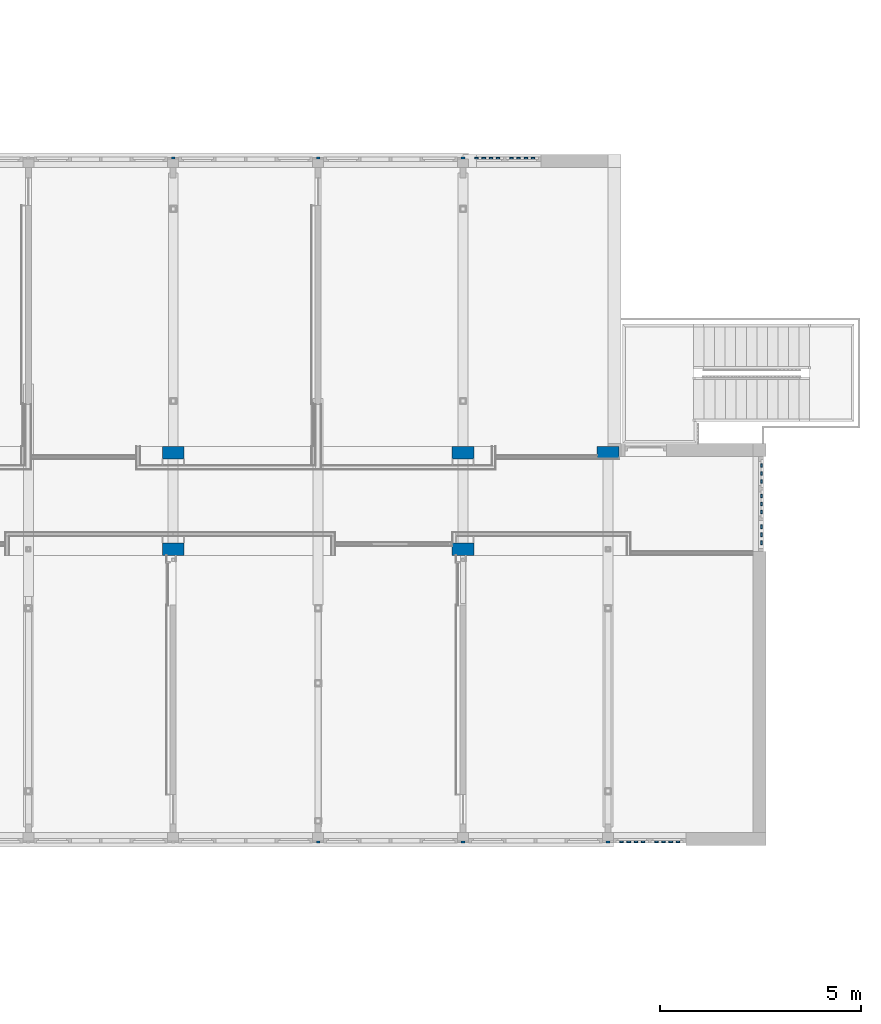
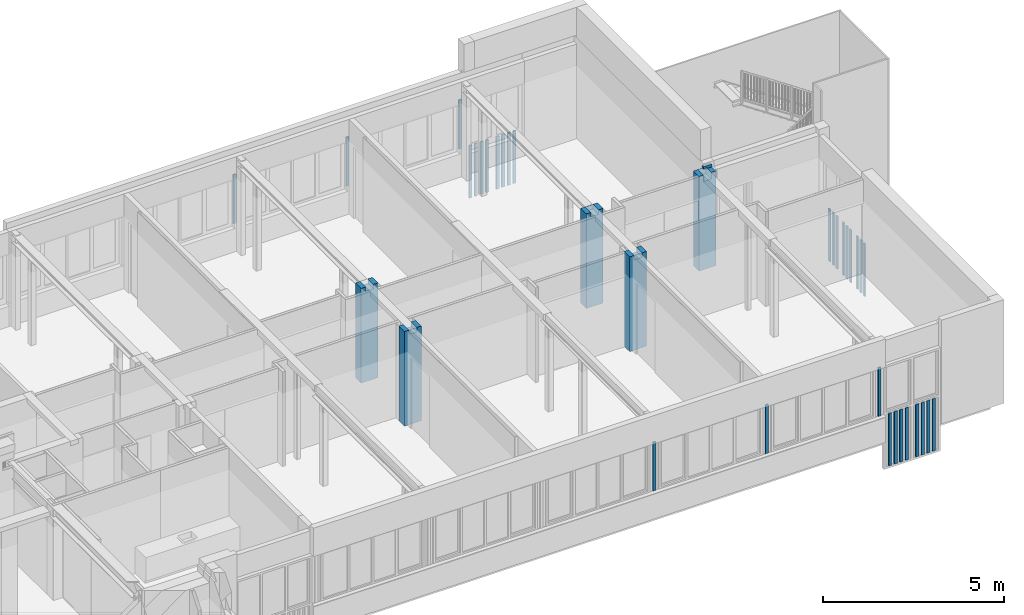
# One storey, part 18 of 117: 36 columns.
"""IFC2X3 building model written with IfcOpenShell, lengths in millimetres."""

from ifc_helpers import new_model, entity, si_unit, converted_unit, derived_unit, money_unit, direction, frame, origin_with_axes, place, context, subcontext, project, spatial, faceted_brep, material, type_object, element, save


model = new_model("IFC2X3")

# Units and contexts
model_context = context("Model", 3, precision=0.01, world=origin_with_axes(), true_north=direction((0.0, 1.0)))
body_context = subcontext(model_context, "Body", "Model", "MODEL_VIEW")
ifc_project = project(units=[si_unit("LENGTHUNIT", "METRE", prefix="MILLI"), si_unit("AREAUNIT", "SQUARE_METRE"), si_unit("VOLUMEUNIT", "CUBIC_METRE"), converted_unit("PLANEANGLEUNIT", "DEGREE", entity("IfcPlaneAngleMeasure", 0.0174532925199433), si_unit("PLANEANGLEUNIT", "RADIAN"), dimensions=[0, 0, 0, 0, 0, 0, 0]), money_unit("EUR"), converted_unit("TIMEUNIT", "Year", entity("IfcTimeMeasure", 31557600.0), si_unit("TIMEUNIT", "SECOND"), dimensions=[0, 0, 1, 0, 0, 0, 0]), si_unit("MASSUNIT", "GRAM", prefix="KILO"), si_unit("THERMODYNAMICTEMPERATUREUNIT", "DEGREE_CELSIUS"), si_unit("LUMINOUSINTENSITYUNIT", "LUMEN"), si_unit("ENERGYUNIT", "JOULE", prefix="MEGA"), derived_unit("THERMALCONDUCTANCEUNIT", [(si_unit("POWERUNIT", "WATT"), 1), (si_unit("LENGTHUNIT", "METRE"), -1), (si_unit("THERMODYNAMICTEMPERATUREUNIT", "KELVIN"), -1)]), derived_unit("SPECIFICHEATCAPACITYUNIT", [(si_unit("ENERGYUNIT", "JOULE"), 1), (si_unit("MASSUNIT", "GRAM", prefix="KILO"), -1), (si_unit("THERMODYNAMICTEMPERATUREUNIT", "KELVIN"), -1)]), derived_unit("MASSDENSITYUNIT", [(si_unit("MASSUNIT", "GRAM", prefix="KILO"), 1), (si_unit("VOLUMEUNIT", "CUBIC_METRE"), -1)])], contexts=[model_context])

# Site, building, storey
site_placement = place(None, origin_with_axes())
site = spatial("IfcSite", under=ifc_project, at=site_placement, Name="Site", CompositionType="ELEMENT")
building_placement = place(site_placement, origin_with_axes())
building = spatial("IfcBuilding", under=site, at=building_placement, Name="Naam gebouw", CompositionType="ELEMENT")
storey_placement = place(building_placement, frame((0.0, 0.0, 4150.0), z_axis=(0.0, 0.0, 1.0), x_axis=(1.0, 0.0, 0.0)))
storey = spatial("IfcBuildingStorey", under=building, at=storey_placement, Name="1e verdieping N", CompositionType="ELEMENT", Elevation=4150.0)

# Columns
ifc_material_1 = material(Name="Metaal - Staal C")
column_type_1 = type_object("IfcColumnType", Name="Metaal - Staal C 90 x 44", PredefinedType="COLUMN")
for number, where, z_axis, x_axis, name in (
    (1, (54337.74999999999, 10752.91242510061, -993.0000000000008), (0.0, 0.0, 1.0), (1.0, 0.0, 0.0), "_Kolom-x"),
    (2, (54693.08333333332, 10752.91242510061, -993.0000000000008), (0.0, 0.0, 1.0), (1.0, 0.0, 0.0), "_Kolom-x"),
    (3, (54515.41666666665, 10752.91242510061, -993.0000000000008), (0.0, 0.0, 1.0), (1.0, 0.0, 0.0), "_Kolom-x"),
    (4, (54870.74999999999, 10752.91242510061, -993.0000000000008), (0.0, 0.0, 1.0), (1.0, 0.0, 0.0), "_Kolom-x"),
    (5, (55381.91666666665, 10752.91242510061, -993.0000000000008), (0.0, 0.0, 1.0), (1.0, 0.0, 0.0), "_Kolom-x"),
    (6, (55559.58333333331, 10752.91242510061, -993.0000000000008), (0.0, 0.0, 1.0), (1.0, 0.0, 0.0), "_Kolom-x"),
    (7, (55737.24999999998, 10752.91242510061, -993.0000000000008), (0.0, 0.0, 1.0), (1.0, 0.0, 0.0), "_Kolom-x"),
    (8, (55204.24999999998, 10752.91242510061, -993.0000000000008), (0.0, 0.0, 1.0), (1.0, 0.0, 0.0), "_Kolom-x"),
):
    element("IfcColumn", number, at=place(storey_placement, frame(where, z_axis=z_axis, x_axis=x_axis)), inside=storey, type_object=column_type_1, material=ifc_material_1, Name=name, ObjectType="COLUMN", context=body_context, shape_type="Brep", body=[
        faceted_brep([(-45.00000000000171, -22.00000000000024, 1776.000000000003), (-45.00000000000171, -22.00000000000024, 0.0), (45.00000000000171, -22.00000000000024, 0.0), (45.00000000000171, -22.00000000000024, 1776.000000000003), (-45.00000000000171, 22.00000000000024, 1776.000000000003), (-45.00000000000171, 22.00000000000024, 0.0), (45.00000000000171, 22.00000000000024, 0.0), (45.00000000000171, 22.00000000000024, 1776.000000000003)], [[[0, 1, 2, 3]], [[4, 5, 1, 0]], [[2, 1, 5, 6]], [[3, 2, 6, 7]], [[4, 0, 3, 7]], [[7, 6, 5, 4]]]),
    ])
column_1_placement = place(storey_placement, frame((46799.99999999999, 10752.91242510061, 782.9999999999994), z_axis=(0.0, 0.0, 1.0), x_axis=(1.0, 0.0, 0.0)))
element("IfcColumn", 9, at=column_1_placement, inside=storey, type_object=column_type_1, material=ifc_material_1, Name="_Kolom-x", ObjectType="COLUMN", context=body_context, shape_type="Brep", body=[
    faceted_brep([(45.00000000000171, -22.00000000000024, 17.63269807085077), (45.00000000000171, -16.99999999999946, 18.51433297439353), (45.00000000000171, -16.99999999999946, 28.51433297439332), (45.00000000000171, -14.99999999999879, 28.51433297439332), (45.00000000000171, -14.99999999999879, 16.83613371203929), (45.00000000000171, -22.00000000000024, 15.6018448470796), (45.00000000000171, -22.00000000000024, 0.0), (45.00000000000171, 22.00000000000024, 0.0), (45.00000000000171, 22.00000000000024, 1657.0), (45.00000000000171, -22.00000000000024, 1657.0), (-45.00000000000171, -16.99999999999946, 18.51433297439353), (-45.00000000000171, -22.00000000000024, 17.63269807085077), (-45.00000000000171, -16.99999999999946, 28.51433297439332), (-45.00000000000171, -14.99999999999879, 28.51433297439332), (-45.00000000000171, -14.99999999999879, 16.83613371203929), (-45.00000000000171, -22.00000000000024, 15.6018448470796), (-45.00000000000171, -22.00000000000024, 0.0), (-45.00000000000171, 22.00000000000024, 0.0), (-45.00000000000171, 22.00000000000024, 1657.0), (-45.00000000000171, -22.00000000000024, 1657.0)], [[[0, 1, 2, 3, 4, 5, 6, 7, 8, 9]], [[10, 1, 0, 11]], [[12, 2, 1, 10]], [[13, 3, 2, 12]], [[14, 4, 3, 13]], [[15, 5, 4, 14]], [[6, 5, 15, 16]], [[7, 6, 16, 17]], [[18, 8, 7, 17]], [[8, 18, 19, 9]], [[19, 11, 0, 9]], [[12, 10, 11, 19, 18, 17, 16, 15, 14, 13]]]),
])
for number, where, z_axis, x_axis, name in (
    (10, (50399.99999999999, 10752.9124251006, 782.9999999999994), (0.0, 0.0, 1.0), (1.0, 0.0, 0.0), "_Kolom-x"),
    (11, (53999.99999999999, 10752.9124251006, 782.9999999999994), (0.0, 0.0, 1.0), (1.0, 0.0, 0.0), "_Kolom-x"),
):
    element("IfcColumn", number, at=place(storey_placement, frame(where, z_axis=z_axis, x_axis=x_axis)), inside=storey, type_object=column_type_1, material=ifc_material_1, Name=name, ObjectType="COLUMN", context=body_context, shape_type="Brep", body=[
        faceted_brep([(45.00000000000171, -22.00000000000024, 17.63269807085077), (45.00000000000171, -16.99999999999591, 18.51433297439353), (45.00000000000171, -16.99999999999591, 28.51433297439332), (45.00000000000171, -14.99999999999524, 28.51433297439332), (45.00000000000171, -14.99999999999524, 16.83613371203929), (45.00000000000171, -22.00000000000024, 15.6018448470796), (45.00000000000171, -22.00000000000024, 0.0), (45.00000000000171, 22.00000000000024, 0.0), (45.00000000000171, 22.00000000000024, 1657.0), (45.00000000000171, -22.00000000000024, 1657.0), (-45.00000000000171, -16.99999999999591, 18.51433297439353), (-45.00000000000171, -22.00000000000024, 17.63269807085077), (-45.00000000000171, -16.99999999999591, 28.51433297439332), (-45.00000000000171, -14.99999999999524, 28.51433297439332), (-45.00000000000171, -14.99999999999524, 16.83613371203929), (-45.00000000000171, -22.00000000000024, 15.6018448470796), (-45.00000000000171, -22.00000000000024, 0.0), (-45.00000000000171, 22.00000000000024, 0.0), (-45.00000000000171, 22.00000000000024, 1657.0), (-45.00000000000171, -22.00000000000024, 1657.0)], [[[0, 1, 2, 3, 4, 5, 6, 7, 8, 9]], [[10, 1, 0, 11]], [[12, 2, 1, 10]], [[13, 3, 2, 12]], [[14, 4, 3, 13]], [[15, 5, 4, 14]], [[6, 5, 15, 16]], [[7, 6, 16, 17]], [[18, 8, 7, 17]], [[8, 18, 19, 9]], [[19, 11, 0, 9]], [[12, 10, 11, 19, 18, 17, 16, 15, 14, 13]]]),
    ])
for number, where, z_axis, x_axis, name in (
    (12, (57815.99999999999, 19712.31718700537, -993.0000000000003), (0.0, 0.0, 1.0), (0.0, 1.0, 0.0), "_Kolom-x"),
    (13, (57815.99999999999, 19911.07909176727, -993.0000000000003), (0.0, 0.0, 1.0), (0.0, 1.0, 0.0), "_Kolom-x"),
    (14, (57815.99999999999, 20109.84099652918, -993.0000000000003), (0.0, 0.0, 1.0), (0.0, 1.0, 0.0), "_Kolom-x"),
    (15, (57815.99999999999, 18949.6505203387, -993.0000000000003), (0.0, 0.0, 1.0), (0.0, 1.0, 0.0), "_Kolom-x"),
    (16, (57815.99999999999, 19148.41242510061, -993.0000000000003), (0.0, 0.0, 1.0), (0.0, 1.0, 0.0), "_Kolom-x"),
    (17, (57815.99999999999, 18186.98385367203, -993.0000000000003), (0.0, 0.0, 1.0), (0.0, 1.0, 0.0), "_Kolom-x"),
    (18, (57815.99999999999, 18385.74575843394, -993.0000000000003), (0.0, 0.0, 1.0), (0.0, 1.0, 0.0), "_Kolom-x"),
    (19, (57815.99999999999, 19347.17432986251, -993.0000000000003), (0.0, 0.0, 1.0), (0.0, 1.0, 0.0), "_Kolom-x"),
    (20, (57815.99999999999, 18584.50766319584, -993.0000000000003), (0.0, 0.0, 1.0), (0.0, 1.0, 0.0), "_Kolom-x"),
):
    element("IfcColumn", number, at=place(storey_placement, frame(where, z_axis=z_axis, x_axis=x_axis)), inside=storey, type_object=column_type_1, material=ifc_material_1, Name=name, ObjectType="COLUMN", context=body_context, shape_type="Brep", body=[
        faceted_brep([(-45.00000000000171, -21.99999999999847, 1776.000000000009), (-45.00000000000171, -21.99999999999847, 0.0), (45.00000000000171, -21.99999999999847, 0.0), (45.00000000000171, -21.99999999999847, 1776.000000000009), (-45.00000000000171, 21.99999999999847, 1776.000000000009), (-45.00000000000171, 21.99999999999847, 0.0), (45.00000000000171, 21.99999999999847, 0.0), (45.00000000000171, 21.99999999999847, 1776.000000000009)], [[[0, 1, 2, 3]], [[4, 5, 1, 0]], [[2, 1, 5, 6]], [[3, 2, 6, 7]], [[4, 0, 3, 7]], [[7, 6, 5, 4]]]),
    ])
for number, where, z_axis, x_axis, name in (
    (21, (51270.75, 27743.91242510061, -993.0000000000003), (0.0, 0.0, 1.0), (-1.0, 0.0, 0.0), "_Kolom-x"),
    (22, (51093.08333333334, 27743.91242510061, -993.0000000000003), (0.0, 0.0, 1.0), (-1.0, 0.0, 0.0), "_Kolom-x"),
    (23, (50915.41666666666, 27743.91242510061, -993.0000000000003), (0.0, 0.0, 1.0), (-1.0, 0.0, 0.0), "_Kolom-x"),
    (24, (50737.75, 27743.91242510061, -993.0000000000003), (0.0, 0.0, 1.0), (-1.0, 0.0, 0.0), "_Kolom-x"),
    (25, (52137.25, 27743.91242510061, -993.0000000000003), (0.0, 0.0, 1.0), (-1.0, 0.0, 0.0), "_Kolom-x"),
    (26, (51959.58333333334, 27743.91242510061, -993.0000000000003), (0.0, 0.0, 1.0), (-1.0, 0.0, 0.0), "_Kolom-x"),
    (27, (51781.91666666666, 27743.91242510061, -993.0000000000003), (0.0, 0.0, 1.0), (-1.0, 0.0, 0.0), "_Kolom-x"),
    (28, (51604.25, 27743.91242510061, -993.0000000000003), (0.0, 0.0, 1.0), (-1.0, 0.0, 0.0), "_Kolom-x"),
):
    element("IfcColumn", number, at=place(storey_placement, frame(where, z_axis=z_axis, x_axis=x_axis)), inside=storey, type_object=column_type_1, material=ifc_material_1, Name=name, ObjectType="COLUMN", context=body_context, shape_type="Brep", body=[
        faceted_brep([(-45.00000000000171, -21.99999999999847, 1776.000000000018), (-45.00000000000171, -21.99999999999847, 0.0), (45.00000000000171, -21.99999999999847, 0.0), (45.00000000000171, -21.99999999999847, 1776.000000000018), (-45.00000000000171, 21.99999999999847, 1776.000000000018), (-45.00000000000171, 21.99999999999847, 0.0), (45.00000000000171, 21.99999999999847, 0.0), (45.00000000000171, 21.99999999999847, 1776.000000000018)], [[[0, 1, 2, 3]], [[4, 5, 1, 0]], [[2, 1, 5, 6]], [[3, 2, 6, 7]], [[4, 0, 3, 7]], [[7, 6, 5, 4]]]),
    ])
column_2_placement = place(storey_placement, frame((50399.99999999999, 27743.91242510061, 782.9999999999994), z_axis=(0.0, 0.0, 1.0), x_axis=(-1.0, 0.0, 0.0)))
element("IfcColumn", 29, at=column_2_placement, inside=storey, type_object=column_type_1, material=ifc_material_1, Name="_Kolom-x", ObjectType="COLUMN", context=body_context, shape_type="Brep", body=[
    faceted_brep([(-45.00000000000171, -14.99999999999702, 28.51433297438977), (-45.00000000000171, -16.99999999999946, 28.51433297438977), (-45.00000000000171, -16.99999999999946, 18.51433297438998), (-45.00000000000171, -21.99999999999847, 17.63269807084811), (-45.00000000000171, -21.99999999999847, 1657.0), (-45.00000000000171, 21.99999999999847, 1657.0), (-45.00000000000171, 21.99999999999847, 0.0), (-45.00000000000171, -21.99999999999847, 0.0), (-45.00000000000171, -21.99999999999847, 15.60184484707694), (-45.00000000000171, -14.99999999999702, 16.83613371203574), (45.00000000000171, -16.99999999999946, 28.51433297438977), (45.00000000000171, -14.99999999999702, 28.51433297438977), (45.00000000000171, -16.99999999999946, 18.51433297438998), (45.00000000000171, -21.99999999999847, 17.63269807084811), (45.00000000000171, -21.99999999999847, 1657.0), (45.00000000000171, 21.99999999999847, 1657.0), (45.00000000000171, 21.99999999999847, 0.0), (45.00000000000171, -21.99999999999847, 0.0), (45.00000000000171, -21.99999999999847, 15.60184484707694), (45.00000000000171, -14.99999999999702, 16.83613371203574)], [[[0, 1, 2, 3, 4, 5, 6, 7, 8, 9]], [[10, 1, 0, 11]], [[12, 2, 1, 10]], [[12, 13, 3, 2]], [[4, 3, 13, 14]], [[15, 5, 4, 14]], [[5, 15, 16, 6]], [[16, 17, 7, 6]], [[17, 18, 8, 7]], [[19, 9, 8, 18]], [[11, 0, 9, 19]], [[11, 19, 18, 17, 16, 15, 14, 13, 12, 10]]]),
])
column_3_placement = place(storey_placement, frame((43199.99999999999, 27743.91242510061, 782.9999999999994), z_axis=(0.0, 0.0, 1.0), x_axis=(-1.0, 0.0, 0.0)))
element("IfcColumn", 30, at=column_3_placement, inside=storey, type_object=column_type_1, material=ifc_material_1, Name="_Kolom-x", ObjectType="COLUMN", context=body_context, shape_type="Brep", body=[
    faceted_brep([(-45.00000000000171, -14.99999999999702, 28.51433297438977), (-45.00000000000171, -16.99999999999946, 28.51433297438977), (-45.00000000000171, -16.99999999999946, 18.51433297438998), (-45.00000000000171, -21.99999999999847, 17.63269807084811), (-45.00000000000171, -21.99999999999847, 1657.0), (-45.00000000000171, 21.99999999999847, 1657.0), (-45.00000000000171, 21.99999999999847, 0.0), (-45.00000000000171, -21.99999999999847, 0.0), (-45.00000000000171, -21.99999999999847, 15.60184484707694), (-45.00000000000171, -14.99999999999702, 16.83613371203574), (45.00000000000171, -16.99999999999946, 28.51433297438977), (45.00000000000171, -15.00000000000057, 28.51433297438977), (45.00000000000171, -16.99999999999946, 18.51433297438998), (45.00000000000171, -21.99999999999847, 17.63269807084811), (45.00000000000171, -21.99999999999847, 1657.0), (45.00000000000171, 21.99999999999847, 1657.0), (45.00000000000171, 21.99999999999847, 0.0), (45.00000000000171, -21.99999999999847, 0.0), (45.00000000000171, -21.99999999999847, 15.60184484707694), (45.00000000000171, -15.00000000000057, 16.83613371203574)], [[[0, 1, 2, 3, 4, 5, 6, 7, 8, 9]], [[10, 1, 0, 11]], [[12, 2, 1, 10]], [[12, 13, 3, 2]], [[4, 3, 13, 14]], [[15, 5, 4, 14]], [[5, 15, 16, 6]], [[16, 17, 7, 6]], [[17, 18, 8, 7]], [[19, 9, 8, 18]], [[11, 0, 9, 19]], [[11, 19, 18, 17, 16, 15, 14, 13, 12, 10]]]),
])
column_4_placement = place(storey_placement, frame((46799.99999999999, 27743.91242510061, 782.9999999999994), z_axis=(0.0, 0.0, 1.0), x_axis=(-1.0, 0.0, 0.0)))
element("IfcColumn", 31, at=column_4_placement, inside=storey, type_object=column_type_1, material=ifc_material_1, Name="_Kolom-x", ObjectType="COLUMN", context=body_context, shape_type="Brep", body=[
    faceted_brep([(-45.00000000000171, -14.99999999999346, 28.51433297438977), (-45.00000000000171, -16.99999999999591, 28.51433297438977), (-45.00000000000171, -16.99999999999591, 18.51433297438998), (-45.00000000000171, -21.99999999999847, 17.63269807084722), (-45.00000000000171, -21.99999999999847, 1657.0), (-45.00000000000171, 21.99999999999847, 1657.0), (-45.00000000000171, 21.99999999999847, 0.0), (-45.00000000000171, -21.99999999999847, 0.0), (-45.00000000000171, -21.99999999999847, 15.60184484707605), (-45.00000000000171, -14.99999999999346, 16.83613371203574), (45.00000000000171, -16.99999999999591, 28.51433297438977), (45.00000000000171, -14.99999999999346, 28.51433297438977), (45.00000000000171, -16.99999999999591, 18.51433297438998), (45.00000000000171, -21.99999999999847, 17.63269807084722), (45.00000000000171, -21.99999999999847, 1657.0), (45.00000000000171, 21.99999999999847, 1657.0), (45.00000000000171, 21.99999999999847, 0.0), (45.00000000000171, -21.99999999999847, 0.0), (45.00000000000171, -21.99999999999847, 15.60184484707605), (45.00000000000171, -14.99999999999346, 16.83613371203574)], [[[0, 1, 2, 3, 4, 5, 6, 7, 8, 9]], [[10, 1, 0, 11]], [[12, 2, 1, 10]], [[12, 13, 3, 2]], [[4, 3, 13, 14]], [[15, 5, 4, 14]], [[5, 15, 16, 6]], [[16, 17, 7, 6]], [[17, 18, 8, 7]], [[19, 9, 8, 18]], [[11, 0, 9, 19]], [[11, 19, 18, 17, 16, 15, 14, 13, 12, 10]]]),
])
ifc_material_2 = material(Name="ALG - CONSTRUCTIEF")
column_type_2 = type_object("IfcColumnType", Name="ALG - CONSTRUCTIEF 540 x 310", PredefinedType="COLUMN")
column_5_placement = place(storey_placement, frame((50399.99999999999, 20425.91242510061, -99.99999999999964), z_axis=(0.0, 0.0, 1.0), x_axis=(1.0, 0.0, 0.0)))
element("IfcColumn", 32, at=column_5_placement, inside=storey, type_object=column_type_2, material=ifc_material_2, Name="_Kolom-x", ObjectType="COLUMN", context=body_context, shape_type="Brep", body=[
    faceted_brep([(-270.0000000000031, -155.0000000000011, 3300.0), (-125.0, -155.0000000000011, 3300.0), (-125.0, 150.0000000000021, 3300.0), (125.0, 150.0000000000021, 3300.0), (125.0, -155.0000000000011, 3300.0), (270.0000000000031, -155.0000000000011, 3300.0), (270.0000000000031, 155.0000000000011, 3300.0), (-270.0000000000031, 155.0000000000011, 3300.0), (125.0, -155.0000000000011, 3149.999999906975), (-125.0, -155.0000000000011, 3149.999999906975), (-270.0000000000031, -155.0000000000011, 99.99999999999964), (270.0000000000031, -155.0000000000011, 99.99999999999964), (-125.0, 150.0000000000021, 3149.999999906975), (125.0, 150.0000000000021, 3149.999999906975), (270.0000000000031, 155.0000000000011, 99.99999999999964), (-270.0000000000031, 155.0000000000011, 99.99999999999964)], [[[0, 1, 2, 3, 4, 5, 6, 7]], [[8, 9, 1, 0, 10, 11, 5, 4]], [[12, 2, 1, 9]], [[13, 3, 2, 12]], [[8, 4, 3, 13]], [[11, 14, 6, 5]], [[14, 15, 7, 6]], [[15, 10, 0, 7]], [[12, 9, 8, 13]], [[11, 10, 15, 14]]]),
])
column_6_placement = place(storey_placement, frame((43199.99999999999, 20425.91242510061, -99.99999999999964), z_axis=(0.0, 0.0, 1.0), x_axis=(1.0, 0.0, 0.0)))
element("IfcColumn", 33, at=column_6_placement, inside=storey, type_object=column_type_2, material=ifc_material_2, Name="_Kolom-x", ObjectType="COLUMN", context=body_context, shape_type="Brep", body=[
    faceted_brep([(-125.0, 155.0000000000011, 3300.0), (-125.0, 155.0000000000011, 3149.999999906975), (125.0, 155.0000000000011, 3149.999999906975), (125.0, 155.0000000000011, 3300.0), (270.0000000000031, 155.0000000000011, 3300.0), (270.0000000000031, 155.0000000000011, 99.99999999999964), (-270.0000000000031, 155.0000000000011, 99.99999999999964), (-270.0000000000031, 155.0000000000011, 3300.0), (-125.0, -155.0000000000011, 3149.999999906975), (-125.0, -155.0000000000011, 3300.0), (125.0, -155.0000000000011, 3149.999999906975), (125.0, -155.0000000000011, 3300.0), (270.0000000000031, -155.0000000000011, 3300.0), (270.0000000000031, -155.0000000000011, 99.99999999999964), (-270.0000000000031, -155.0000000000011, 99.99999999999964), (-270.0000000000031, -155.0000000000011, 3300.0)], [[[0, 1, 2, 3, 4, 5, 6, 7]], [[8, 1, 0, 9]], [[10, 2, 1, 8]], [[10, 11, 3, 2]], [[4, 3, 11, 12]], [[13, 5, 4, 12]], [[13, 14, 6, 5]], [[6, 14, 15, 7]], [[15, 9, 0, 7]], [[10, 8, 9, 15, 14, 13, 12, 11]]]),
])
column_7_placement = place(storey_placement, frame((54000.0, 20425.91242510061, -99.99999999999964), z_axis=(0.0, 0.0, 1.0), x_axis=(1.0, 0.0, 0.0)))
element("IfcColumn", 34, at=column_7_placement, inside=storey, type_object=column_type_2, material=ifc_material_2, Name="_Kolom-x", ObjectType="COLUMN", context=body_context, shape_type="Brep", body=[
    faceted_brep([(0.0, 65.51750883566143, 3330.000000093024), (125.0, 65.51750883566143, 3330.000000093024), (125.0, 65.51750883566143, 3300.0), (270.0000000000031, 65.51750883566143, 3300.0), (270.0000000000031, 65.51750883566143, 3400.0), (0.0, 65.51750883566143, 3400.0), (125.0, 150.0000000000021, 3330.000000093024), (0.0, 150.0000000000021, 3330.000000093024), (125.0, -155.0000000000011, 3300.0), (125.0, 150.0000000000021, 3079.999999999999), (125.0, -155.0000000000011, 3079.999999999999), (270.0000000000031, -155.0000000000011, 3300.0), (270.0000000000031, 155.0000000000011, 3400.0), (270.0000000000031, -155.0000000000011, 99.99999999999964), (270.0000000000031, 155.0000000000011, 99.99999999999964), (0.0, 155.0000000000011, 3400.0), (0.0, 150.0000000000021, 3300.0), (0.0, 155.0000000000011, 3300.0), (-125.0, 150.0000000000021, 3300.0), (-125.0, 150.0000000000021, 3079.999999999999), (-125.0, -155.0000000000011, 3079.999999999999), (-125.0, -155.0000000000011, 3300.0), (-270.0000000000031, -155.0000000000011, 3300.0), (-270.0000000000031, -155.0000000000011, 99.99999999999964), (-270.0000000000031, 155.0000000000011, 99.99999999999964), (-270.0000000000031, 155.0000000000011, 3300.0)], [[[0, 1, 2, 3, 4, 5]], [[6, 1, 0, 7]], [[8, 2, 1, 6, 9, 10]], [[3, 2, 8, 11]], [[12, 4, 3, 11, 13, 14]], [[4, 12, 15, 5]], [[16, 7, 0, 5, 15, 17]], [[6, 7, 16, 18, 19, 9]], [[19, 20, 10, 9]], [[10, 20, 21, 22, 23, 13, 11, 8]], [[13, 23, 24, 14]], [[24, 25, 17, 15, 12, 14]], [[21, 18, 16, 17, 25, 22]], [[19, 18, 21, 20]], [[24, 23, 22, 25]]]),
])
column_8_placement = place(storey_placement, frame((43199.99999999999, 18025.91242510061, -99.99999999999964), z_axis=(0.0, 0.0, 1.0), x_axis=(1.0, 0.0, 0.0)))
element("IfcColumn", 35, at=column_8_placement, inside=storey, type_object=column_type_2, material=ifc_material_2, Name="_Kolom-x", ObjectType="COLUMN", context=body_context, shape_type="Brep", body=[
    faceted_brep([(-124.9999999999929, 155.0000000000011, 3300.0), (-124.9999999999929, 155.0000000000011, 3149.999999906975), (125.0000000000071, 155.0000000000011, 3149.999999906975), (125.0000000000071, 155.0000000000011, 3300.0), (270.0000000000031, 155.0000000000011, 3300.0), (270.0000000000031, 155.0000000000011, 99.99999999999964), (-270.0000000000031, 155.0000000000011, 99.99999999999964), (-270.0000000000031, 155.0000000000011, 3300.0), (-124.9999999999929, -155.0000000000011, 3149.999999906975), (-124.9999999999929, -155.0000000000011, 3300.0), (125.0000000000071, -155.0000000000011, 3149.999999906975), (125.0000000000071, -155.0000000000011, 3300.0), (270.0000000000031, -155.0000000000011, 3300.0), (270.0000000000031, -155.0000000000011, 99.99999999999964), (-270.0000000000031, -155.0000000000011, 99.99999999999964), (-270.0000000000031, -155.0000000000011, 3300.0)], [[[0, 1, 2, 3, 4, 5, 6, 7]], [[8, 1, 0, 9]], [[10, 2, 1, 8]], [[10, 11, 3, 2]], [[4, 3, 11, 12]], [[13, 5, 4, 12]], [[13, 14, 6, 5]], [[6, 14, 15, 7]], [[15, 9, 0, 7]], [[10, 8, 9, 15, 14, 13, 12, 11]]]),
])
column_9_placement = place(storey_placement, frame((50399.99999999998, 18025.91242510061, -99.99999999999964), z_axis=(0.0, 0.0, 1.0), x_axis=(1.0, 0.0, 0.0)))
element("IfcColumn", 36, at=column_9_placement, inside=storey, type_object=column_type_2, material=ifc_material_2, Name="_Kolom-x", ObjectType="COLUMN", context=body_context, shape_type="Brep", body=[
    faceted_brep([(-124.9999999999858, 155.0000000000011, 3300.0), (-124.9999999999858, 155.0000000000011, 3149.999999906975), (125.0000000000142, 155.0000000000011, 3149.999999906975), (125.0000000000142, 155.0000000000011, 3300.0), (270.0000000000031, 155.0000000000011, 3300.0), (270.0000000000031, 155.0000000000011, 99.99999999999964), (-270.0000000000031, 155.0000000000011, 99.99999999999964), (-270.0000000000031, 155.0000000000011, 3300.0), (-124.9999999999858, -155.0000000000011, 3149.999999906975), (-124.9999999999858, -155.0000000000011, 3300.0), (125.0000000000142, -155.0000000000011, 3149.999999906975), (125.0000000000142, -155.0000000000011, 3300.0), (270.0000000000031, -155.0000000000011, 3300.0), (270.0000000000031, -155.0000000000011, 99.99999999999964), (-270.0000000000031, -155.0000000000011, 99.99999999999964), (-270.0000000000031, -155.0000000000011, 3300.0)], [[[0, 1, 2, 3, 4, 5, 6, 7]], [[8, 1, 0, 9]], [[10, 2, 1, 8]], [[10, 11, 3, 2]], [[4, 3, 11, 12]], [[13, 5, 4, 12]], [[13, 14, 6, 5]], [[6, 14, 15, 7]], [[15, 9, 0, 7]], [[10, 8, 9, 15, 14, 13, 12, 11]]]),
])

save(model, "model.ifc")
